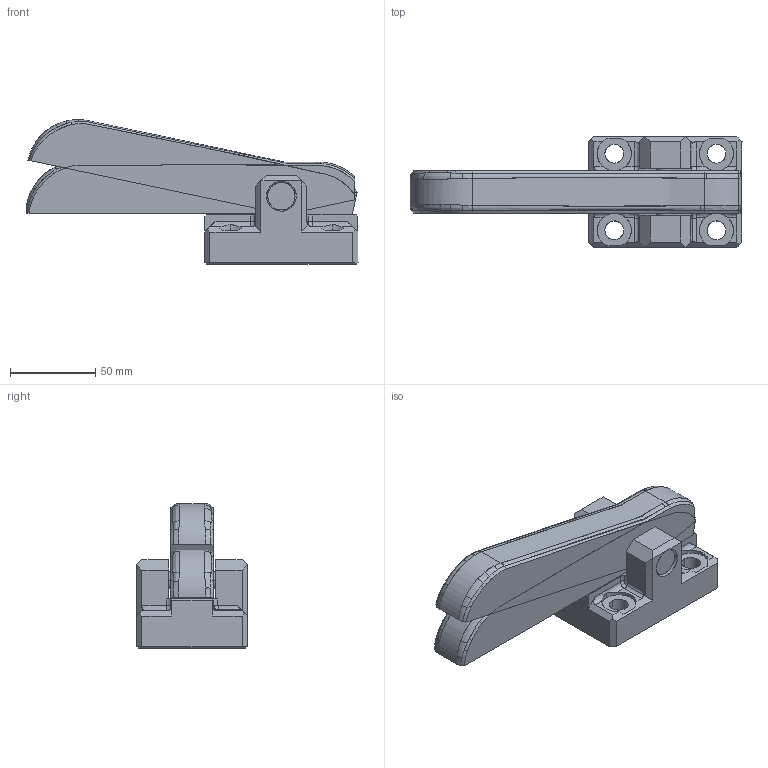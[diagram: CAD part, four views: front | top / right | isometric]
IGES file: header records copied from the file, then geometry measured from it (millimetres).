
Global section: file name: E:\UnigraphicsGraphicData\MISUMI_PRESS-PARTS\IGES\3d_slces25u_01831_r00.igs; native system: NX V5.0; preprocessor: UGS NX IGES V5.0; author: MISUMI; date: 20110105.162759; units: millimetre
Bounding box: 195 x 65 x 85 mm (x, y, z)
Surface area: 75768.2 mm2 (no closed solid volume)
Topology: 0 solids, 0 shells, 229 faces, 1616 edges, 1616 vertices
Faces by surface type: bspline 229
